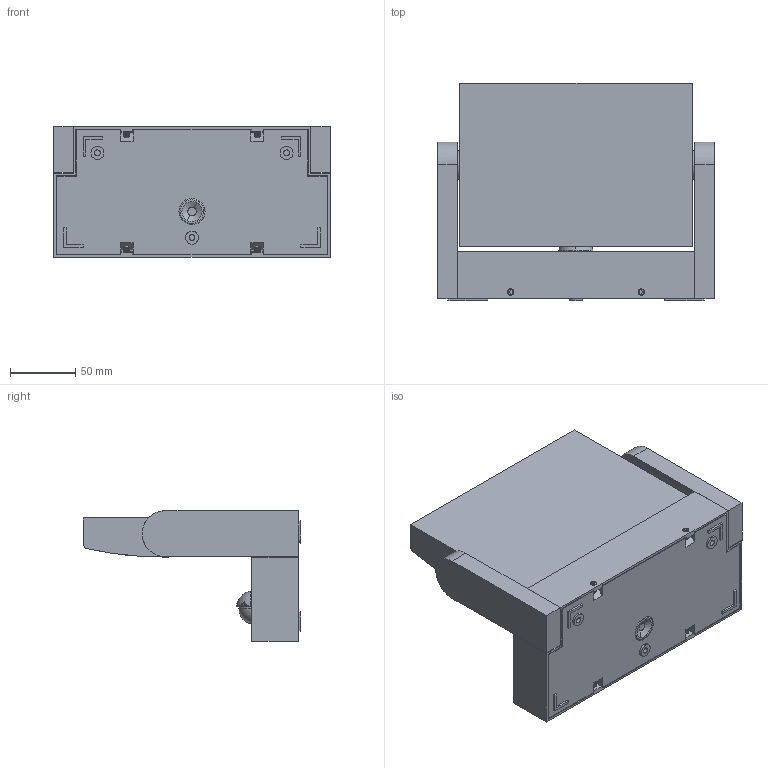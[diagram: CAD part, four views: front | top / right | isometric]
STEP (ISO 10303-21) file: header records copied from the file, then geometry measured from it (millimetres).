
FILE_DESCRIPTION(('CATIA V5 STEP Exchange'),'2;1');
FILE_NAME('E:\GaaPro\luo\5.待开发项目\1.壁灯\GW-007\GW-S007.stp','2023-11-02T06:43:59+00:00',('none'),('none'),'CATIA Version 5-6 Release 2018','CATIA V5 STEP AP203','none');
FILE_SCHEMA(('CONFIG_CONTROL_DESIGN'));
Products named in the file (2): GW-007-12 装配体; BMO705_ASM
Assembly tree (23 placements, depth 3):
  GW-007-12 装配体
    #57
    #5974  x2
    #18476
    #24944  x2
    #25996
    #26553
    #34594
    #40405
    #52099
    #69323  x4
    #75010
    #75561
    BMO705_ASM
      #75738
      #90444
      #101257
      #106107
      #109926
Bounding box: 212 x 166.5 x 100 mm (x, y, z)
Volume: 463322.7 mm3; surface area: 403505.4 mm2
Topology: 130 solids, 130 shells, 4443 faces, 11530 edges, 7164 vertices
Faces by surface type: plane 2308, cylinder 1153, bspline 406, sphere 381, cone 146, torus 41, extrusion 8
Entity records: 110957 total; most frequent: CARTESIAN_POINT 31727, ORIENTED_EDGE 17978, DIRECTION 12908, EDGE_CURVE 8989, VECTOR 6060, LINE 6052, VERTEX_POINT 5852, AXIS2_PLACEMENT_3D 4321
